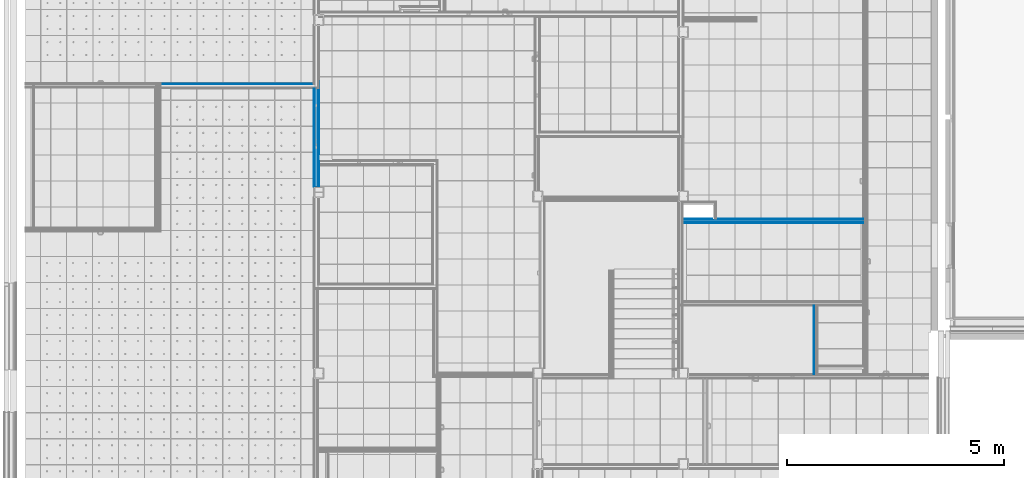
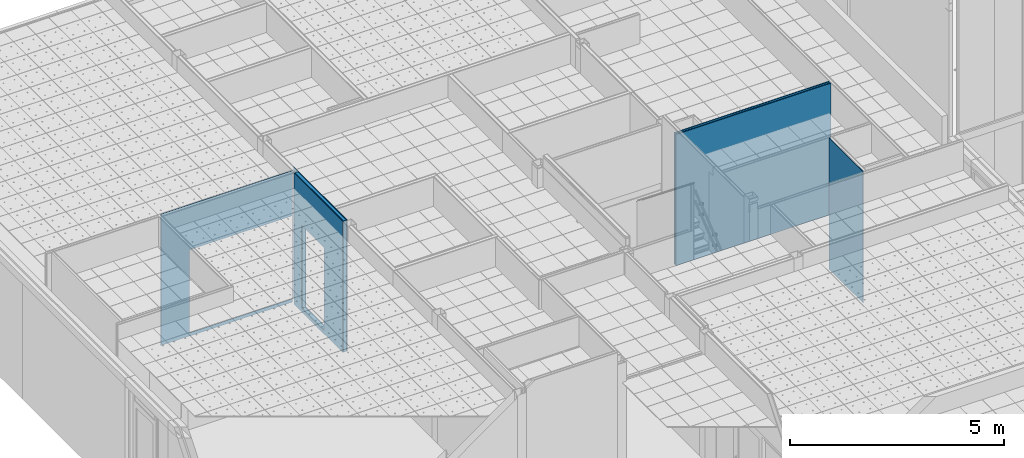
# One storey, part 82 of 338: 12 building element parts, 2 openings, 4 elements without a shape of their own.
"""IFC2X3 building model written with IfcOpenShell, lengths in millimetres."""

from ifc_helpers import new_model, entity, si_unit, converted_unit, derived_unit, money_unit, direction, frame, origin_with_axes, place, context, subcontext, project, spatial, faceted_brep, material, type_object, element, aggregate, save


model = new_model("IFC2X3")

# Units and contexts
model_context = context("Model", 3, precision=0.01, world=origin_with_axes(), true_north=direction((0.0, 1.0)))
plan_context = context("Plan", 3, precision=0.01, world=origin_with_axes(), true_north=direction((0.0, 1.0)))
body_context = subcontext(model_context, "Body", "Model", "MODEL_VIEW")
ifc_project = project(units=[si_unit("LENGTHUNIT", "METRE", prefix="MILLI"), si_unit("AREAUNIT", "SQUARE_METRE"), si_unit("VOLUMEUNIT", "CUBIC_METRE"), converted_unit("PLANEANGLEUNIT", "DEGREE", entity("IfcPlaneAngleMeasure", 0.0174532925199), si_unit("PLANEANGLEUNIT", "RADIAN"), dimensions=[0, 0, 0, 0, 0, 0, 0]), money_unit("EUR"), converted_unit("TIMEUNIT", "Year", entity("IfcTimeMeasure", 31556926.0), si_unit("TIMEUNIT", "SECOND"), dimensions=[0, 0, 1, 0, 0, 0, 0]), si_unit("MASSUNIT", "GRAM", prefix="KILO"), si_unit("THERMODYNAMICTEMPERATUREUNIT", "DEGREE_CELSIUS"), si_unit("LUMINOUSINTENSITYUNIT", "LUMEN"), si_unit("ENERGYUNIT", "JOULE", prefix="MEGA"), derived_unit("THERMALCONDUCTANCEUNIT", [(si_unit("POWERUNIT", "WATT"), 1), (si_unit("LENGTHUNIT", "METRE"), -1), (si_unit("THERMODYNAMICTEMPERATUREUNIT", "KELVIN"), -1)]), derived_unit("SPECIFICHEATCAPACITYUNIT", [(si_unit("ENERGYUNIT", "JOULE"), 1), (si_unit("MASSUNIT", "GRAM", prefix="KILO"), -1), (si_unit("THERMODYNAMICTEMPERATUREUNIT", "KELVIN"), -1)]), derived_unit("MASSDENSITYUNIT", [(si_unit("MASSUNIT", "GRAM", prefix="KILO"), 1), (si_unit("VOLUMEUNIT", "CUBIC_METRE"), -1)])], contexts=[model_context, plan_context])

# Site, building, storey
site_placement = place(None, origin_with_axes())
site = spatial("IfcSite", under=ifc_project, at=site_placement, Name="Fortuinstraat Woensdrecht", CompositionType="ELEMENT")
building_placement = place(site_placement, origin_with_axes())
building = spatial("IfcBuilding", under=site, at=building_placement, Name="IKC Fortuna", CompositionType="ELEMENT")
storey_placement = place(building_placement, origin_with_axes())
storey = spatial("IfcBuildingStorey", under=building, at=storey_placement, Name="00 begane grond", CompositionType="ELEMENT", Elevation=0.0)

# Wall, building element parts
wall_type_1 = type_object("IfcWallType", Name="MS100 2.50.2A 100", PredefinedType="NOTDEFINED")
wall_1_placement = place(storey_placement, frame((28851.9349765, 23384.5135484, -90.0), z_axis=(0.0, 0.0, 1.0), x_axis=(1.0, 0.0, 0.0)))
wall_1 = element("IfcWall", 1, at=wall_1_placement, inside=storey, type_object=wall_type_1, Name="22_Wand_Binnenwand")
ifc_material_1 = material(Name="Gipsplaat")
building_element_part_1_placement = place(wall_1_placement, origin_with_axes())
building_element_part_1 = element("IfcBuildingElementPart", 2, at=building_element_part_1_placement, material=ifc_material_1, Name="Gipsplaat", context=body_context, shape_type="Brep", body=[
    faceted_brep([(4267.72908855, 100.0, 3740.0), (100.0, 100.0, 3740.0), (100.0, 87.5, 3740.0), (4267.72908855, 87.5, 3740.0), (4267.72908855, 100.0, 0.0), (100.0, 100.0, 0.0), (100.0, 87.5, 0.0), (4267.72908855, 87.5, 0.0)], [[[0, 1, 2, 3]], [[4, 5, 1, 0]], [[2, 1, 5, 6]], [[3, 2, 6, 7]], [[3, 7, 4, 0]], [[7, 6, 5, 4]]]),
])
building_element_part_2_placement = place(wall_1_placement, origin_with_axes())
building_element_part_2 = element("IfcBuildingElementPart", 3, at=building_element_part_2_placement, material=ifc_material_1, Name="Gipsplaat", context=body_context, shape_type="Brep", body=[
    faceted_brep([(4267.72908855, 87.5, 3740.0), (100.0, 87.5, 3740.0), (100.0, 75.0, 3740.0), (4267.72908855, 75.0, 3740.0), (4267.72908855, 87.5, 0.0), (100.0, 87.5, 0.0), (100.0, 75.0, 0.0), (4267.72908855, 75.0, 0.0)], [[[0, 1, 2, 3]], [[4, 5, 1, 0]], [[2, 1, 5, 6]], [[3, 2, 6, 7]], [[3, 7, 4, 0]], [[7, 6, 5, 4]]]),
])
ifc_material_2 = material(Name="Isolatie - Steenwol LSW")
building_element_part_3_placement = place(wall_1_placement, origin_with_axes())
building_element_part_3 = element("IfcBuildingElementPart", 4, at=building_element_part_3_placement, material=ifc_material_2, Name="Isolatie - Steenwol LSW", context=body_context, shape_type="Brep", body=[
    faceted_brep([(4267.72908855, 75.0, 3740.0), (100.0, 75.0, 3740.0), (100.0, 25.0, 3740.0), (4267.72908855, 25.0, 3740.0), (4267.72908855, 75.0, 0.0), (100.0, 75.0, 0.0), (100.0, 25.0, 0.0), (4267.72908855, 25.0, 0.0)], [[[0, 1, 2, 3]], [[4, 5, 1, 0]], [[2, 1, 5, 6]], [[3, 2, 6, 7]], [[3, 7, 4, 0]], [[7, 6, 5, 4]]]),
])
building_element_part_4_placement = place(wall_1_placement, origin_with_axes())
building_element_part_4 = element("IfcBuildingElementPart", 5, at=building_element_part_4_placement, material=ifc_material_1, Name="Gipsplaat", context=body_context, shape_type="Brep", body=[
    faceted_brep([(4267.72908855, 25.0, 3740.0), (100.0, 25.0, 3740.0), (100.0, 12.5, 3740.0), (4267.72908855, 12.5, 3740.0), (4267.72908855, 25.0, 0.0), (100.0, 25.0, 0.0), (100.0, 12.5, 0.0), (4267.72908855, 12.5, 0.0)], [[[0, 1, 2, 3]], [[4, 5, 1, 0]], [[2, 1, 5, 6]], [[3, 2, 6, 7]], [[3, 7, 4, 0]], [[7, 6, 5, 4]]]),
])
building_element_part_5_placement = place(wall_1_placement, origin_with_axes())
building_element_part_5 = element("IfcBuildingElementPart", 6, at=building_element_part_5_placement, material=ifc_material_1, Name="Gipsplaat", context=body_context, shape_type="Brep", body=[
    faceted_brep([(4267.72908855, 12.5, 3740.0), (100.0, 12.5, 3740.0), (100.0, 0.0, 3740.0), (4267.72908855, 0.0, 3740.0), (4267.72908855, 12.5, 0.0), (100.0, 12.5, 0.0), (100.0, 0.0, 0.0), (4267.72908855, 0.0, 0.0)], [[[0, 1, 2, 3]], [[4, 5, 1, 0]], [[2, 1, 5, 6]], [[3, 2, 6, 7]], [[3, 7, 4, 0]], [[7, 6, 5, 4]]]),
])
aggregate(wall_1, [building_element_part_1, building_element_part_2, building_element_part_3, building_element_part_4, building_element_part_5])

# Wall, building element part
wall_2_placement = place(storey_placement, frame((31970.1326154, 21484.5135484, -90.0), z_axis=(0.0, 0.0, 1.0), x_axis=(0.0, -1.0, 0.0)))
wall_2 = element("IfcWall", 7, at=wall_2_placement, inside=storey, type_object=wall_type_1, Name="22_Wand_Binnenwand")
building_element_part_6_placement = place(wall_2_placement, origin_with_axes())
building_element_part_6 = element("IfcBuildingElementPart", 8, at=building_element_part_6_placement, material=ifc_material_1, Name="Gipsplaat", context=body_context, shape_type="Brep", body=[
    faceted_brep([(1584.7169201, 12.5, 3740.0), (0.0, 12.5, 3740.0), (0.0, 0.0, 3740.0), (1584.7169201, 0.0, 3740.0), (1584.7169201, 12.5, 0.0), (0.0, 12.5, 0.0), (0.0, 0.0, 0.0), (1584.7169201, 0.0, 0.0)], [[[0, 1, 2, 3]], [[4, 5, 1, 0]], [[2, 1, 5, 6]], [[3, 2, 6, 7]], [[3, 7, 4, 0]], [[7, 6, 5, 4]]]),
])
aggregate(wall_2, [building_element_part_6])

# Wall, opening, building element part
wall_type_2 = type_object("IfcWallType", Name="MS125 2.75.2A 125", PredefinedType="NOTDEFINED")
wall_3_placement = place(storey_placement, frame((16919.5342231, 26482.1110266, -90.0), z_axis=(0.0, 0.0, 1.0), x_axis=(1.0, 0.0, 0.0)))
wall_3 = element("IfcWall", 9, at=wall_3_placement, inside=storey, type_object=wall_type_2, Name="22_Wand_Binnenwand")
opening_1_placement = place(wall_3_placement, frame((2154.34796011, 0.0, 90.0), z_axis=(0.0, 0.0, 1.0), x_axis=(1.0, 0.0, 0.0)))
element("IfcOpeningElement", 10, at=opening_1_placement, cuts=wall_3, Name="32_Deur_h.15", context=body_context, shape_type="Brep", body=[
    faceted_brep([(-1378.5, 104.0, 2367.0), (-1378.5, 104.0, 0.0), (-1378.5, -125.0, 0.0), (-1378.5, -125.0, 2367.0), (1378.5, 104.0, 2367.0), (1378.5, 104.0, 0.0), (1378.5, -125.0, 0.0), (1378.5, -125.0, 2367.0)], [[[0, 1, 2, 3]], [[0, 4, 5, 1]], [[1, 5, 6, 2]], [[3, 2, 6, 7]], [[4, 0, 3, 7]], [[5, 4, 7, 6]]]),
    faceted_brep([(-1378.5, 104.0, 0.0), (-1378.5, 104.0, 2367.0), (-1378.5, 250.0, 2367.0), (-1378.5, 250.0, 0.0), (1378.5, 104.0, 0.0), (1378.5, 104.0, 2367.0), (1378.5, 250.0, 2367.0), (1378.5, 250.0, 0.0)], [[[0, 1, 2, 3]], [[0, 4, 5, 1]], [[1, 5, 6, 2]], [[3, 2, 6, 7]], [[4, 0, 3, 7]], [[5, 4, 7, 6]]]),
])
building_element_part_7_placement = place(wall_3_placement, origin_with_axes())
building_element_part_7 = element("IfcBuildingElementPart", 11, at=building_element_part_7_placement, material=ifc_material_1, Name="Gipsplaat", context=body_context, shape_type="Brep", body=[
    faceted_brep([(0.0, 100.0, 3740.0), (0.0, 100.0, 0.0), (3544.90075339, 100.0, 0.0), (3544.90075339, 100.0, 3740.0), (775.847960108, 100.0, 90.0), (775.847960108, 100.0, 2457.0), (3532.84796011, 100.0, 2457.0), (3532.84796011, 100.0, 90.0), (0.0, 112.5, 3740.0), (0.0, 112.5, 0.0), (3544.90075339, 112.5, 0.0), (3544.90075339, 112.5, 3740.0), (775.847960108, 112.5, 90.0), (775.847960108, 112.5, 2457.0), (3532.84796011, 112.5, 2457.0), (3532.84796011, 112.5, 90.0)], [[[0, 1, 2, 3], [4, 5, 6, 7]], [[8, 9, 1, 0]], [[1, 9, 10, 2]], [[2, 10, 11, 3]], [[8, 0, 3, 11]], [[5, 4, 12, 13]], [[14, 6, 5, 13]], [[15, 7, 6, 14]], [[4, 7, 15, 12]], [[9, 8, 11, 10], [15, 14, 13, 12]]]),
])
aggregate(wall_3, [building_element_part_7])

# Wall, opening, building element parts
wall_4_placement = place(storey_placement, frame((20451.9349765, 26482.1110266, -90.0), z_axis=(0.0, 0.0, 1.0), x_axis=(0.0, -1.0, 0.0)))
wall_4 = element("IfcWall", 12, at=wall_4_placement, inside=storey, type_object=wall_type_2, Name="22_Wand_Binnenwand")
opening_2_placement = place(wall_4_placement, frame((864.564515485, 0.0, 90.0), z_axis=(0.0, 0.0, 1.0), x_axis=(1.0, 0.0, 0.0)))
element("IfcOpeningElement", 13, at=opening_2_placement, cuts=wall_4, Name="32_Deur_h.01c", context=body_context, shape_type="Brep", body=[
    faceted_brep([(-517.0, -125.0, 0.0), (-517.0, -125.0, 2367.0), (-517.0, 250.0, 2367.0), (-517.0, 250.0, 0.0), (517.0, -125.0, 0.0), (517.0, -125.0, 2367.0), (517.0, 250.0, 2367.0), (517.0, 250.0, 0.0)], [[[0, 1, 2, 3]], [[0, 4, 5, 1]], [[1, 5, 6, 2]], [[3, 2, 6, 7]], [[4, 0, 3, 7]], [[5, 4, 7, 6]]]),
])
building_element_part_8_placement = place(wall_4_placement, origin_with_axes())
building_element_part_8 = element("IfcBuildingElementPart", 14, at=building_element_part_8_placement, material=ifc_material_1, Name="Gipsplaat", context=body_context, shape_type="Brep", body=[
    faceted_brep([(-225.0, 112.5, 0.0), (2262.31439837, 112.5, 0.0), (2262.31439837, 112.5, 3740.0), (-225.0, 112.5, 3740.0), (1381.56451548, 112.5, 90.0), (347.564515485, 112.5, 90.0), (347.564515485, 112.5, 2457.0), (1381.56451548, 112.5, 2457.0), (-225.0, 125.0, 0.0), (2262.31439837, 125.0, 0.0), (2262.31439837, 125.0, 3740.0), (-225.0, 125.0, 3740.0), (1381.56451548, 125.0, 90.0), (347.564515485, 125.0, 90.0), (347.564515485, 125.0, 2457.0), (1381.56451548, 125.0, 2457.0)], [[[0, 1, 2, 3], [4, 5, 6, 7]], [[8, 9, 1, 0]], [[10, 2, 1, 9]], [[3, 2, 10, 11]], [[0, 3, 11, 8]], [[12, 13, 5, 4]], [[13, 14, 6, 5]], [[14, 15, 7, 6]], [[15, 12, 4, 7]], [[11, 10, 9, 8], [12, 15, 14, 13]]]),
])
building_element_part_9_placement = place(wall_4_placement, origin_with_axes())
building_element_part_9 = element("IfcBuildingElementPart", 15, at=building_element_part_9_placement, material=ifc_material_1, Name="Gipsplaat", context=body_context, shape_type="Brep", body=[
    faceted_brep([(0.0, 100.0, 0.0), (2262.31439837, 100.0, 0.0), (2262.31439837, 100.0, 3740.0), (0.0, 100.0, 3740.0), (1381.56451548, 100.0, 90.0), (347.564515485, 100.0, 90.0), (347.564515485, 100.0, 2457.0), (1381.56451548, 100.0, 2457.0), (0.0, 112.5, 0.0), (2262.31439837, 112.5, 0.0), (2262.31439837, 112.5, 3740.0), (0.0, 112.5, 3740.0), (1381.56451548, 112.5, 90.0), (347.564515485, 112.5, 90.0), (347.564515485, 112.5, 2457.0), (1381.56451548, 112.5, 2457.0)], [[[0, 1, 2, 3], [4, 5, 6, 7]], [[8, 9, 1, 0]], [[10, 2, 1, 9]], [[3, 2, 10, 11]], [[11, 8, 0, 3]], [[12, 13, 5, 4]], [[13, 14, 6, 5]], [[14, 15, 7, 6]], [[15, 12, 4, 7]], [[11, 10, 9, 8], [12, 15, 14, 13]]]),
])
building_element_part_10_placement = place(wall_4_placement, origin_with_axes())
building_element_part_10 = element("IfcBuildingElementPart", 16, at=building_element_part_10_placement, material=ifc_material_2, Name="Isolatie - Steenwol LSW", context=body_context, shape_type="Brep", body=[
    faceted_brep([(0.0, 25.0, 0.0), (2262.31439837, 25.0, 0.0), (2262.31439837, 25.0, 3740.0), (0.0, 25.0, 3740.0), (1381.56451548, 25.0, 90.0), (347.564515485, 25.0, 90.0), (347.564515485, 25.0, 2457.0), (1381.56451548, 25.0, 2457.0), (0.0, 100.0, 0.0), (2262.31439837, 100.0, 0.0), (2262.31439837, 100.0, 3740.0), (0.0, 100.0, 3740.0), (1381.56451548, 100.0, 90.0), (347.564515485, 100.0, 90.0), (347.564515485, 100.0, 2457.0), (1381.56451548, 100.0, 2457.0)], [[[0, 1, 2, 3], [4, 5, 6, 7]], [[8, 9, 1, 0]], [[10, 2, 1, 9]], [[3, 2, 10, 11]], [[11, 8, 0, 3]], [[12, 13, 5, 4]], [[13, 14, 6, 5]], [[14, 15, 7, 6]], [[15, 12, 4, 7]], [[11, 10, 9, 8], [12, 15, 14, 13]]]),
])
building_element_part_11_placement = place(wall_4_placement, origin_with_axes())
building_element_part_11 = element("IfcBuildingElementPart", 17, at=building_element_part_11_placement, material=ifc_material_1, Name="Gipsplaat", context=body_context, shape_type="Brep", body=[
    faceted_brep([(0.0, 12.5, 0.0), (2262.31439837, 12.5, 0.0), (2262.31439837, 12.5, 3740.0), (0.0, 12.5, 3740.0), (1381.56451548, 12.5, 90.0), (347.564515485, 12.5, 90.0), (347.564515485, 12.5, 2457.0), (1381.56451548, 12.5, 2457.0), (0.0, 25.0, 0.0), (2262.31439837, 25.0, 0.0), (2262.31439837, 25.0, 3740.0), (0.0, 25.0, 3740.0), (1381.56451548, 25.0, 90.0), (347.564515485, 25.0, 90.0), (347.564515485, 25.0, 2457.0), (1381.56451548, 25.0, 2457.0)], [[[0, 1, 2, 3], [4, 5, 6, 7]], [[8, 9, 1, 0]], [[10, 2, 1, 9]], [[3, 2, 10, 11]], [[11, 8, 0, 3]], [[12, 13, 5, 4]], [[13, 14, 6, 5]], [[14, 15, 7, 6]], [[15, 12, 4, 7]], [[11, 10, 9, 8], [12, 15, 14, 13]]]),
])
building_element_part_12_placement = place(wall_4_placement, origin_with_axes())
building_element_part_12 = element("IfcBuildingElementPart", 18, at=building_element_part_12_placement, material=ifc_material_1, Name="Gipsplaat", context=body_context, shape_type="Brep", body=[
    faceted_brep([(0.0, 0.0, 0.0), (2262.31439837, 0.0, 0.0), (2262.31439837, 0.0, 3740.0), (0.0, 0.0, 3740.0), (1381.56451548, 0.0, 90.0), (347.564515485, 0.0, 90.0), (347.564515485, 0.0, 2457.0), (1381.56451548, 0.0, 2457.0), (0.0, 12.5, 0.0), (2262.31439837, 12.5, 0.0), (2262.31439837, 12.5, 3740.0), (0.0, 12.5, 3740.0), (1381.56451548, 12.5, 90.0), (347.564515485, 12.5, 90.0), (347.564515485, 12.5, 2457.0), (1381.56451548, 12.5, 2457.0)], [[[0, 1, 2, 3], [4, 5, 6, 7]], [[8, 9, 1, 0]], [[10, 2, 1, 9]], [[3, 2, 10, 11]], [[11, 8, 0, 3]], [[12, 13, 5, 4]], [[13, 14, 6, 5]], [[14, 15, 7, 6]], [[15, 12, 4, 7]], [[11, 10, 9, 8], [12, 15, 14, 13]]]),
])
aggregate(wall_4, [building_element_part_8, building_element_part_9, building_element_part_10, building_element_part_11, building_element_part_12])

save(model, "model.ifc")
